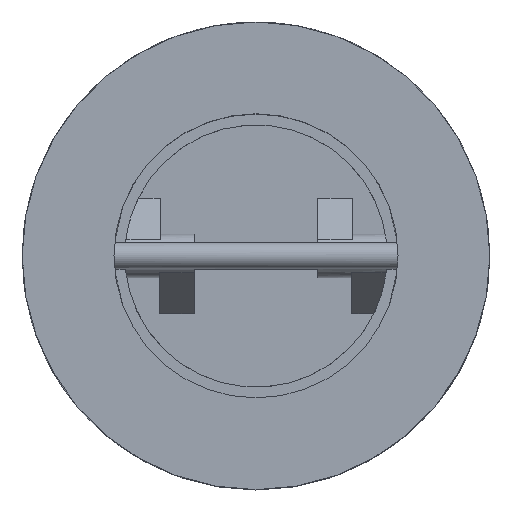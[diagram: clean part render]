
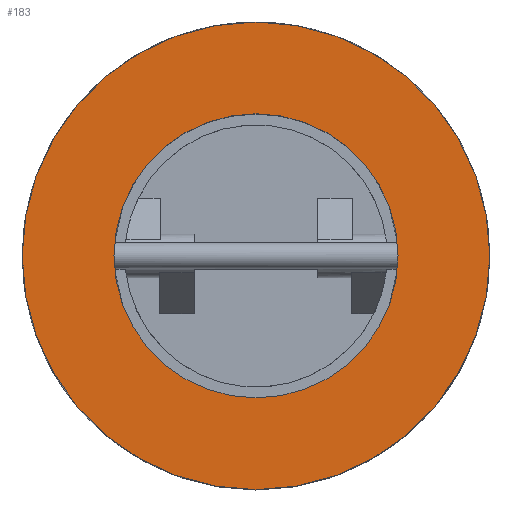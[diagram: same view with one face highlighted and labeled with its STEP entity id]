
A CAD part, top view. The second image highlights one B-rep face of the part: STEP entity #183.
In plain terms, the highlighted planar face has unit normal (0, 0, 1).
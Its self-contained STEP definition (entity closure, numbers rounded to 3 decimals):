
#183=ADVANCED_FACE('',(#822,#824),#826,.T.);
#822=FACE_BOUND('',#823,.T.);
#823=EDGE_LOOP('',(#1339));
#824=FACE_BOUND('',#825,.T.);
#825=EDGE_LOOP('',(#1340));
#826=PLANE('',#827);
#827=AXIS2_PLACEMENT_3D('',#828,#829,#830);
#828=CARTESIAN_POINT('',(0.,0.,43.));
#829=DIRECTION('',(0.,0.,1.));
#830=DIRECTION('',(0.,-1.,0.));
#1339=ORIENTED_EDGE('',*,*,#1681,.T.);
#1340=ORIENTED_EDGE('',*,*,#1691,.F.);
#1681=EDGE_CURVE('',#1899,#1899,#1900,.T.);
#1691=EDGE_CURVE('',#1919,#1919,#1920,.T.);
#1899=VERTEX_POINT('',#2306);
#1900=CIRCLE('',#2307,53.5);
#1919=VERTEX_POINT('',#2352);
#1920=CIRCLE('',#2353,32.5);
#2306=CARTESIAN_POINT('',(0.,-53.5,43.));
#2307=AXIS2_PLACEMENT_3D('',#2308,#2309,#2310);
#2308=CARTESIAN_POINT('',(0.,0.,43.));
#2309=DIRECTION('',(0.,0.,1.));
#2310=DIRECTION('',(0.,-1.,0.));
#2352=CARTESIAN_POINT('',(0.,-32.5,43.));
#2353=AXIS2_PLACEMENT_3D('',#2354,#2355,#2356);
#2354=CARTESIAN_POINT('',(0.,0.,43.));
#2355=DIRECTION('',(0.,0.,1.));
#2356=DIRECTION('',(0.,-1.,0.));
